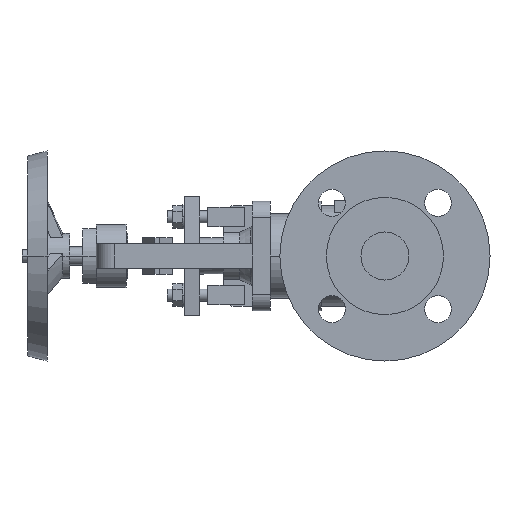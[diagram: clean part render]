
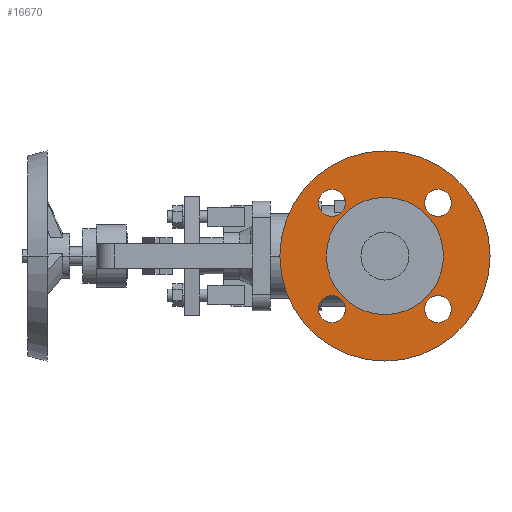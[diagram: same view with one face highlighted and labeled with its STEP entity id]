
A CAD part, left-side view. The second image highlights one B-rep face of the part: STEP entity #16670.
In plain terms, the highlighted planar face has unit normal (-1, 0, 0).
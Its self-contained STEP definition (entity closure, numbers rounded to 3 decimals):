
#8030=CARTESIAN_POINT('',(2.,0.,70.));
#8040=VERTEX_POINT('',#8030);
#8200=CARTESIAN_POINT('',(2.,0.,-70.));
#8210=VERTEX_POINT('',#8200);
#8240=CARTESIAN_POINT('',(2.,0.,0.));
#8250=DIRECTION('',(1.,0.,0.));
#8260=DIRECTION('',(0.,0.,-1.));
#8270=AXIS2_PLACEMENT_3D('',#8240,#8250,#8260);
#8280=CIRCLE('',#8270,70.);
#8290=EDGE_CURVE('',#8040,#8210,#8280,.T.);
#8520=CARTESIAN_POINT('',(2.,35.355,-26.355));
#8530=VERTEX_POINT('',#8520);
#8560=CARTESIAN_POINT('',(2.,35.355,-35.355));
#8570=DIRECTION('',(-1.,0.,0.));
#8580=DIRECTION('',(0.,0.,-1.));
#8590=AXIS2_PLACEMENT_3D('',#8560,#8570,#8580);
#8600=CIRCLE('',#8590,9.);
#8610=CARTESIAN_POINT('',(2.,35.355,-44.355));
#8620=VERTEX_POINT('',#8610);
#8630=EDGE_CURVE('',#8620,#8530,#8600,.T.);
#9010=CARTESIAN_POINT('',(2.,-35.355,-26.355));
#9020=VERTEX_POINT('',#9010);
#9050=CARTESIAN_POINT('',(2.,-35.355,-35.355));
#9060=DIRECTION('',(-1.,0.,0.));
#9070=DIRECTION('',(0.,0.,-1.));
#9080=AXIS2_PLACEMENT_3D('',#9050,#9060,#9070);
#9090=CIRCLE('',#9080,9.);
#9100=CARTESIAN_POINT('',(2.,-35.355,-44.355));
#9110=VERTEX_POINT('',#9100);
#9120=EDGE_CURVE('',#9110,#9020,#9090,.T.);
#9500=CARTESIAN_POINT('',(2.,35.355,44.355));
#9510=VERTEX_POINT('',#9500);
#9670=CARTESIAN_POINT('',(2.,35.355,26.355));
#9680=VERTEX_POINT('',#9670);
#9710=CARTESIAN_POINT('',(2.,35.355,35.355));
#9720=DIRECTION('',(-1.,0.,0.));
#9730=DIRECTION('',(0.,0.,-1.));
#9740=AXIS2_PLACEMENT_3D('',#9710,#9720,#9730);
#9750=CIRCLE('',#9740,9.);
#9760=EDGE_CURVE('',#9510,#9680,#9750,.T.);
#9990=CARTESIAN_POINT('',(2.,-35.355,44.355));
#10000=VERTEX_POINT('',#9990);
#10160=CARTESIAN_POINT('',(2.,-35.355,26.355));
#10170=VERTEX_POINT('',#10160);
#10200=CARTESIAN_POINT('',(2.,-35.355,35.355));
#10210=DIRECTION('',(-1.,0.,0.));
#10220=DIRECTION('',(0.,0.,-1.));
#10230=AXIS2_PLACEMENT_3D('',#10200,#10210,#10220);
#10240=CIRCLE('',#10230,9.);
#10250=EDGE_CURVE('',#10000,#10170,#10240,.T.);
#10480=CARTESIAN_POINT('',(2.,39.,0.));
#10490=VERTEX_POINT('',#10480);
#10520=CARTESIAN_POINT('',(2.,0.,0.));
#10530=DIRECTION('',(-1.,0.,0.));
#10540=DIRECTION('',(0.,1.,0.));
#10550=AXIS2_PLACEMENT_3D('',#10520,#10530,#10540);
#10560=CIRCLE('',#10550,39.);
#10570=CARTESIAN_POINT('',(2.,-39.,0.));
#10580=VERTEX_POINT('',#10570);
#10590=EDGE_CURVE('',#10580,#10490,#10560,.T.);
#16320=CARTESIAN_POINT('',(2.,54.5,0.));
#16330=DIRECTION('',(1.,0.,0.));
#16340=DIRECTION('',(0.,-1.,0.));
#16350=AXIS2_PLACEMENT_3D('',#16320,#16330,#16340);
#16360=PLANE('',#16350);
#16370=ORIENTED_EDGE('',*,*,#10590,.F.);
#16380=EDGE_CURVE('',#10490,#10580,#10560,.T.);
#16390=ORIENTED_EDGE('',*,*,#16380,.F.);
#16400=EDGE_LOOP('',(#16390,#16370));
#16410=FACE_BOUND('',#16400,.T.);
#16420=EDGE_CURVE('',#8210,#8040,#8280,.T.);
#16430=ORIENTED_EDGE('',*,*,#16420,.F.);
#16440=ORIENTED_EDGE('',*,*,#8290,.F.);
#16450=EDGE_LOOP('',(#16440,#16430));
#16460=FACE_OUTER_BOUND('',#16450,.T.);
#16470=EDGE_CURVE('',#8530,#8620,#8600,.T.);
#16480=ORIENTED_EDGE('',*,*,#16470,.F.);
#16490=ORIENTED_EDGE('',*,*,#8630,.F.);
#16500=EDGE_LOOP('',(#16490,#16480));
#16510=FACE_BOUND('',#16500,.T.);
#16520=EDGE_CURVE('',#9020,#9110,#9090,.T.);
#16530=ORIENTED_EDGE('',*,*,#16520,.F.);
#16540=ORIENTED_EDGE('',*,*,#9120,.F.);
#16550=EDGE_LOOP('',(#16540,#16530));
#16560=FACE_BOUND('',#16550,.T.);
#16570=EDGE_CURVE('',#9680,#9510,#9750,.T.);
#16580=ORIENTED_EDGE('',*,*,#16570,.F.);
#16590=ORIENTED_EDGE('',*,*,#9760,.F.);
#16600=EDGE_LOOP('',(#16590,#16580));
#16610=FACE_BOUND('',#16600,.T.);
#16620=EDGE_CURVE('',#10170,#10000,#10240,.T.);
#16630=ORIENTED_EDGE('',*,*,#16620,.F.);
#16640=ORIENTED_EDGE('',*,*,#10250,.F.);
#16650=EDGE_LOOP('',(#16640,#16630));
#16660=FACE_BOUND('',#16650,.T.);
#16670=ADVANCED_FACE('',(#16410,#16460,#16510,#16560,#16610,#16660),
#16360,.F.);
